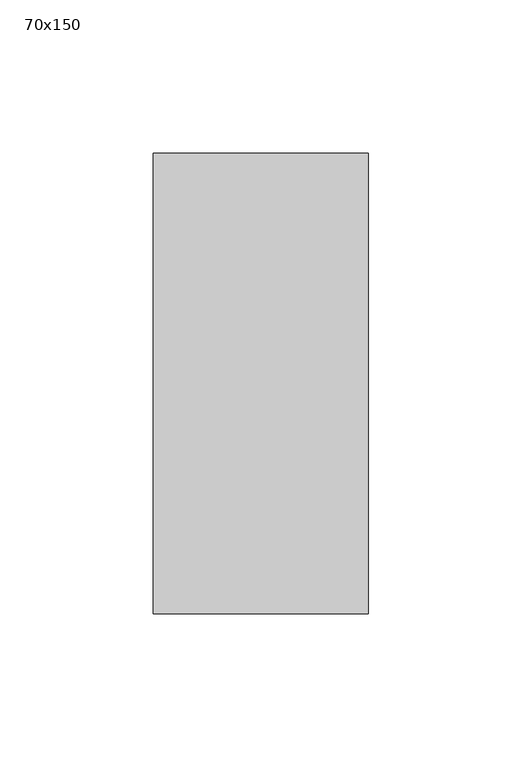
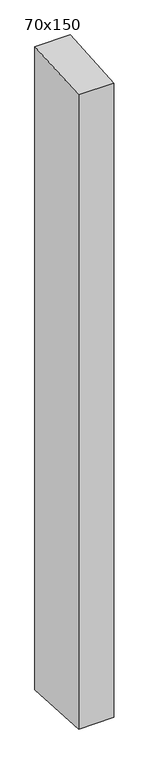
"""IFC4 building model written with IfcOpenShell, lengths in millimetres: member geometry, 長方形のマリオン : 70x150."""

import ifcopenshell
import ifcopenshell.guid

model = None  # the IFC model being written
_history = None  # IfcOwnerHistory: only IFC2X3 demands one
_inside = {}  # id of a spatial element -> (the spatial element, [elements in it])
_under = {}  # id of a project, library or spatial element -> (it, [spatial elements below it])
_declared = {}  # id of a project -> (the project, [libraries it declares])
_typed = {}  # id of a type object -> (the type object, [elements of that type])
_made_of = {}  # id of a material, layer set ... -> (it, [elements and type objects made of it])


def new_model(schema):
    """Start an empty IFC model of exactly this schema.

    Asked for "IFC4X3", IfcOpenShell would pick the latest addendum, in which some entities
    have other attributes; the version numbers below select the first issue.
    IFC2X3 requires an IfcOwnerHistory on every rooted entity: one is made here for all.
    """
    global model, _history
    if schema == "IFC4X3":
        model = ifcopenshell.file(schema_version=(4, 3, 0, 0))
    else:
        model = ifcopenshell.file(schema=schema)
    _inside.clear()
    _under.clear()
    _declared.clear()
    _typed.clear()
    _made_of.clear()
    _history = None
    if model.schema == "IFC2X3":
        org = make("IfcOrganization", Name="unknown")
        user = make(
            "IfcPersonAndOrganization",
            ThePerson=make("IfcPerson", FamilyName="unknown"),
            TheOrganization=org,
        )
        app = make(
            "IfcApplication",
            ApplicationDeveloper=org,
            Version="unknown",
            ApplicationFullName="unknown",
            ApplicationIdentifier="unknown",
        )
        _history = make(
            "IfcOwnerHistory",
            OwningUser=user,
            OwningApplication=app,
            ChangeAction="ADDED",
            CreationDate=0,
        )
    return model


def make(cls, **values):
    """One entity of the class cls with the attributes given. An attribute that is None is left unset."""
    return model.create_entity(
        cls, **{name: value for name, value in values.items() if value is not None}
    )


def rooted(cls, **values):
    """An entity with a GlobalId (a new one), such as an element, a storey or a relation."""
    return make(cls, GlobalId=ifcopenshell.guid.new(), OwnerHistory=_history, **values)


def si_unit(unit_type, name, prefix=None):
    """IfcSIUnit, for example si_unit("LENGTHUNIT", "METRE", prefix="MILLI")."""
    return make("IfcSIUnit", UnitType=unit_type, Prefix=prefix, Name=name)


def assignment(units):
    """IfcUnitAssignment: the units of a project."""
    return None if units is None else make("IfcUnitAssignment", Units=units)


def point(xyz):
    """IfcCartesianPoint."""
    return None if xyz is None else make("IfcCartesianPoint", Coordinates=xyz)


def direction(xyz):
    """IfcDirection."""
    return None if xyz is None else make("IfcDirection", DirectionRatios=xyz)


def frame(location, z_axis=None, x_axis=None):
    """IfcAxis2Placement3D, a coordinate frame: its origin and axes. An axis left out is left unset."""
    return make(
        "IfcAxis2Placement3D",
        Location=point(location),
        Axis=direction(z_axis),
        RefDirection=direction(x_axis),
    )


def origin():
    """The frame at (0, 0, 0) with its axes left unset."""
    return frame((0.0, 0.0, 0.0))


def place(relative_to, where):
    """IfcLocalPlacement: puts the frame where relative to a parent placement (None: the world)."""
    return make(
        "IfcLocalPlacement", PlacementRelTo=relative_to, RelativePlacement=where
    )


def context(
    kind, dimensions, precision=None, world=None, true_north=None, identifier=None
):
    """IfcGeometricRepresentationContext, for example the 3D "Model" context."""
    return make(
        "IfcGeometricRepresentationContext",
        ContextIdentifier=identifier,
        ContextType=kind,
        CoordinateSpaceDimension=dimensions,
        Precision=precision,
        WorldCoordinateSystem=world,
        TrueNorth=true_north,
    )


def project(units=None, contexts=None):
    """IfcProject with its units and contexts."""
    return rooted(
        "IfcProject",
        Name="project",
        RepresentationContexts=contexts,
        UnitsInContext=assignment(units),
    )


def spatial(cls, under=None, at=None, **own):
    """A site, building, storey or space (cls), placed at a placement, below another one or the project."""
    s = rooted(cls, ObjectPlacement=at, **own)
    if under is not None:
        _under.setdefault(under.id(), (under, []))[1].append(s)
    return s


def polyline(points):
    """IfcPolyline through the points."""
    return make("IfcPolyline", Points=[point(p) for p in points])


def outline(outer, holes=None, kind="AREA"):
    """IfcArbitraryClosedProfileDef: a profile drawn as a closed curve; with holes, ...WithVoids."""
    if holes is None:
        return make("IfcArbitraryClosedProfileDef", ProfileType=kind, OuterCurve=outer)
    return make(
        "IfcArbitraryProfileDefWithVoids",
        ProfileType=kind,
        OuterCurve=outer,
        InnerCurves=holes,
    )


def extrude(swept, where, along, depth):
    """IfcExtrudedAreaSolid: the profile swept, set in the frame where, extruded along a direction by depth."""
    return make(
        "IfcExtrudedAreaSolid",
        SweptArea=swept,
        Position=where,
        ExtrudedDirection=direction(along),
        Depth=depth,
    )


def shape(context_of_items, identifier, shape_type, items):
    """IfcShapeRepresentation: the items that make up one representation, for example the "Body"."""
    return make(
        "IfcShapeRepresentation",
        ContextOfItems=context_of_items,
        RepresentationIdentifier=identifier,
        RepresentationType=shape_type,
        Items=items,
    )


def source(mapping_origin, context_of_items, identifier, shape_type, items):
    """IfcRepresentationMap: a shape defined once, which mapped items show again and again."""
    return make(
        "IfcRepresentationMap",
        MappingOrigin=mapping_origin,
        MappedRepresentation=shape(context_of_items, identifier, shape_type, items),
    )


def transform(
    local_origin,
    x_axis=None,
    y_axis=None,
    z_axis=None,
    scale=None,
    scale2=None,
    scale3=None,
    uniform=True,
):
    """IfcCartesianTransformationOperator3D, or its non-uniform kind. x_axis, y_axis, z_axis: its Axis1, 2, 3."""
    if uniform:
        return make(
            "IfcCartesianTransformationOperator3D",
            Axis1=direction(x_axis),
            Axis2=direction(y_axis),
            LocalOrigin=point(local_origin),
            Scale=scale,
            Axis3=direction(z_axis),
        )
    return make(
        "IfcCartesianTransformationOperator3DnonUniform",
        Axis1=direction(x_axis),
        Axis2=direction(y_axis),
        LocalOrigin=point(local_origin),
        Scale=scale,
        Axis3=direction(z_axis),
        Scale2=scale2,
        Scale3=scale3,
    )


def mapped(mapping_source, mapping_target):
    """IfcMappedItem: shows the shape of a source again, moved by a transform."""
    return make(
        "IfcMappedItem", MappingSource=mapping_source, MappingTarget=mapping_target
    )


def made_of(thing, what):
    """Note that an element or type object is made of a material, layer set ...; save() writes the relation."""
    if what is not None:
        _made_of.setdefault(what.id(), (what, []))[1].append(thing)
    return thing


def element(
    cls,
    number,
    at=None,
    inside=None,
    cuts=None,
    type_object=None,
    material=None,
    context=None,
    identifier="Body",
    shape_type=None,
    held_by="IfcProductDefinitionShape",
    body=None,
    shapes=None,
    **own,
):
    """One element of the class cls, such as IfcWall. Its Tag is "e" and its number.

    at: its placement. inside: the storey or other place that contains it. cuts: it is an
    opening in that element (IfcRelVoidsElement). A single representation is given by context,
    identifier, shape_type and body (its items); several are given by shapes. held_by: the class
    of the entity that holds the representations. save() writes the other relations.
    """
    e = rooted(cls, Tag="e%d" % number, ObjectPlacement=at, **own)
    if body is not None:
        shapes = [shape(context, identifier, shape_type, body)]
    if shapes is not None:
        e.Representation = make(held_by, Representations=shapes)
    if inside is not None:
        _inside.setdefault(inside.id(), (inside, []))[1].append(e)
    if cuts is not None:
        rooted(
            "IfcRelVoidsElement", RelatingBuildingElement=cuts, RelatedOpeningElement=e
        )
    if type_object is not None:
        _typed.setdefault(type_object.id(), (type_object, []))[1].append(e)
    return made_of(e, material)


def aggregate(whole, parts):
    """IfcRelAggregates: a whole, such as a stair, and the parts it consists of."""
    return rooted("IfcRelAggregates", RelatingObject=whole, RelatedObjects=parts)


def save(model, path):
    """Write the relations noted so far, then the file.

    IfcRelAggregates (storeys below a building ...), IfcRelContainedInSpatialStructure (elements
    in a storey), IfcRelDefinesByType, IfcRelAssociatesMaterial and IfcRelDeclares: one each for
    every whole, place, type object, material and project.
    """
    for whole, parts in _under.values():
        aggregate(whole, parts)
    for where, things in _inside.values():
        rooted(
            "IfcRelContainedInSpatialStructure",
            RelatedElements=things,
            RelatingStructure=where,
        )
    for kind, things in _typed.values():
        rooted("IfcRelDefinesByType", RelatedObjects=things, RelatingType=kind)
    for what, things in _made_of.values():
        rooted("IfcRelAssociatesMaterial", RelatedObjects=things, RelatingMaterial=what)
    for by, libraries in _declared.values():
        rooted("IfcRelDeclares", RelatingContext=by, RelatedDefinitions=libraries)
    model.write(path)


def member_70x150_b58b1f55(model_context):
    return source(origin(), model_context, "Body", "SweptSolid", [
        extrude(outline(polyline([(-75.0, -5.0270374), (75.0, 5.0270374), (75.0, -1341.2274395), (-75.0, -1332.6851589), (-75.0, -5.0270374)])), frame((-35.0, 0.0, 0.0), z_axis=(1.0, 0.0, 0.0), x_axis=(0.0, 1.0, 0.0)), (0.0, 0.0, 1.0), 70.0),
    ])


if __name__ == "__main__":
    model = new_model("IFC4")
    model_context = context("Model", 3, world=origin())
    ifc_project = project(units=[si_unit("LENGTHUNIT", "METRE", prefix="MILLI")], contexts=[model_context])
    site = spatial("IfcSite", under=ifc_project)
    building = spatial("IfcBuilding", under=site)
    placement = place(None, origin())
    member_70x150_shape = member_70x150_b58b1f55(model_context)
    element("IfcMember", 1, ObjectType="長方形のマリオン : 70x150", at=placement, inside=building, context=model_context, shape_type="MappedRepresentation", body=[
        mapped(member_70x150_shape, transform((0.0, 0.0, 0.0), x_axis=(1.0, 0.0, 0.0), y_axis=(0.0, 1.0, 0.0), z_axis=(0.0, 0.0, 1.0))),
    ])
    save(model, "model.ifc")
